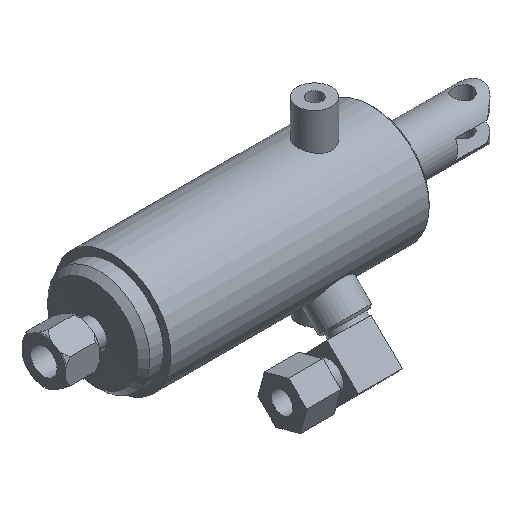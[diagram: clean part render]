
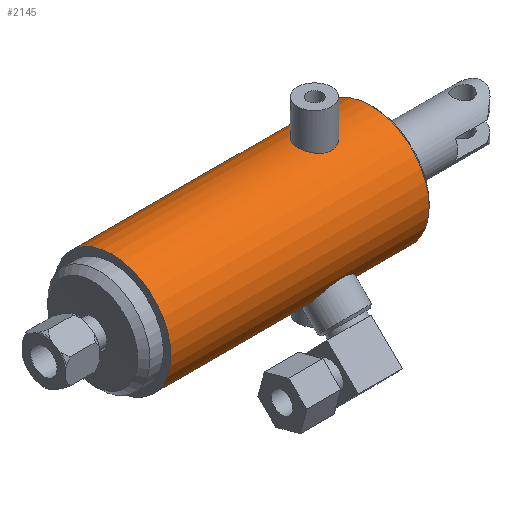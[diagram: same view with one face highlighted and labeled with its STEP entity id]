
A CAD part, isometric view. The second image highlights one B-rep face of the part: STEP entity #2145.
In plain terms, the highlighted cylindrical face has radius 19.05 mm (diameter 38.1 mm), a full revolution.
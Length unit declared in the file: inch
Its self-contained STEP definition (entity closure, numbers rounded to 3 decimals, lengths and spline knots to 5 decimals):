
#135=B_SPLINE_CURVE_WITH_KNOTS('',3,(#4104,#4105,#4106,#4107,#4108,#4109,
#4110,#4111,#4112,#4113,#4114,#4115,#4116,#4117,#4118,#4119,#4120,#4121,
#4122,#4123,#4124,#4125,#4126,#4127,#4128,#4129,#4130,#4131,#4132,#4133,
#4134,#4135,#4136,#4137),.UNSPECIFIED.,.T.,.F.,(4,2,2,2,2,2,2,2,2,2,2,2,
2,2,2,2,4),(0.,0.08293,0.16587,0.24878,0.33169,
0.4146,0.49752,0.58045,0.66338,
0.74632,0.82925,0.91216,0.99507,
1.07799,1.1609,1.24383,1.32677),
 .UNSPECIFIED.);
#137=B_SPLINE_CURVE_WITH_KNOTS('',3,(#4181,#4182,#4183,#4184,#4185,#4186,
#4187,#4188,#4189,#4190,#4191,#4192,#4193,#4194,#4195,#4196,#4197,#4198,
#4199,#4200,#4201,#4202,#4203,#4204,#4205,#4206,#4207,#4208,#4209,#4210,
#4211,#4212,#4213,#4214),.UNSPECIFIED.,.T.,.F.,(4,2,2,2,2,2,2,2,2,2,2,2,
2,2,2,2,4),(0.,0.08293,0.16586,0.24875,0.33164,
0.41457,0.49751,0.58045,0.66338,
0.74632,0.82926,0.91219,0.99513,
1.07802,1.16091,1.24384,1.32677),
 .UNSPECIFIED.);
#326=FACE_BOUND('',#715,.T.);
#327=FACE_BOUND('',#716,.T.);
#328=FACE_BOUND('',#717,.T.);
#478=FACE_OUTER_BOUND('',#714,.T.);
#714=EDGE_LOOP('',(#1941));
#715=EDGE_LOOP('',(#1942));
#716=EDGE_LOOP('',(#1943));
#717=EDGE_LOOP('',(#1944));
#982=CIRCLE('',#2433,0.75);
#983=CIRCLE('',#2437,0.75);
#1167=VERTEX_POINT('',#4103);
#1171=VERTEX_POINT('',#4180);
#1181=VERTEX_POINT('',#4243);
#1182=VERTEX_POINT('',#4248);
#1425=EDGE_CURVE('',#1167,#1167,#135,.T.);
#1429=EDGE_CURVE('',#1171,#1171,#137,.T.);
#1439=EDGE_CURVE('',#1181,#1181,#982,.T.);
#1440=EDGE_CURVE('',#1182,#1182,#983,.T.);
#1941=ORIENTED_EDGE('',*,*,#1439,.F.);
#1942=ORIENTED_EDGE('',*,*,#1425,.T.);
#1943=ORIENTED_EDGE('',*,*,#1429,.T.);
#1944=ORIENTED_EDGE('',*,*,#1440,.T.);
#1995=CYLINDRICAL_SURFACE('',#2439,0.75);
#2145=ADVANCED_FACE('',(#478,#326,#327,#328),#1995,.T.);
#2433=AXIS2_PLACEMENT_3D('',#4244,#3064,#3065);
#2437=AXIS2_PLACEMENT_3D('',#4249,#3072,#3073);
#2439=AXIS2_PLACEMENT_3D('',#4252,#3076,#3077);
#3064=DIRECTION('center_axis',(1.,0.,0.));
#3065=DIRECTION('ref_axis',(0.,-1.,0.));
#3072=DIRECTION('center_axis',(1.,0.,0.));
#3073=DIRECTION('ref_axis',(0.,-1.,0.));
#3076=DIRECTION('center_axis',(1.,0.,0.));
#3077=DIRECTION('ref_axis',(0.,-1.,0.));
#4103=CARTESIAN_POINT('',(28.72441,7.43572,1.12389));
#4104=CARTESIAN_POINT('Ctrl Pts',(28.72441,7.43572,1.12389));
#4105=CARTESIAN_POINT('Ctrl Pts',(28.75206,7.43572,1.12389));
#4106=CARTESIAN_POINT('Ctrl Pts',(28.78143,7.43016,1.12565));
#4107=CARTESIAN_POINT('Ctrl Pts',(28.83527,7.40779,1.13191));
#4108=CARTESIAN_POINT('Ctrl Pts',(28.85976,7.39098,1.1363));
#4109=CARTESIAN_POINT('Ctrl Pts',(28.89842,7.35232,1.14445));
#4110=CARTESIAN_POINT('Ctrl Pts',(28.91523,7.32783,1.14875));
#4111=CARTESIAN_POINT('Ctrl Pts',(28.93761,7.27398,1.15482));
#4112=CARTESIAN_POINT('Ctrl Pts',(28.94316,7.24461,1.1565));
#4113=CARTESIAN_POINT('Ctrl Pts',(28.94316,7.18933,1.1565));
#4114=CARTESIAN_POINT('Ctrl Pts',(28.93761,7.15996,1.15482));
#4115=CARTESIAN_POINT('Ctrl Pts',(28.91523,7.10611,1.14875));
#4116=CARTESIAN_POINT('Ctrl Pts',(28.89842,7.08162,1.14445));
#4117=CARTESIAN_POINT('Ctrl Pts',(28.85976,7.04296,1.1363));
#4118=CARTESIAN_POINT('Ctrl Pts',(28.83527,7.02615,1.13191));
#4119=CARTESIAN_POINT('Ctrl Pts',(28.78143,7.00378,1.12565));
#4120=CARTESIAN_POINT('Ctrl Pts',(28.75206,6.99822,1.12389));
#4121=CARTESIAN_POINT('Ctrl Pts',(28.69677,6.99822,1.12389));
#4122=CARTESIAN_POINT('Ctrl Pts',(28.6674,7.00378,1.12565));
#4123=CARTESIAN_POINT('Ctrl Pts',(28.61356,7.02615,1.13191));
#4124=CARTESIAN_POINT('Ctrl Pts',(28.58907,7.04296,1.1363));
#4125=CARTESIAN_POINT('Ctrl Pts',(28.55041,7.08162,1.14445));
#4126=CARTESIAN_POINT('Ctrl Pts',(28.53359,7.10611,1.14875));
#4127=CARTESIAN_POINT('Ctrl Pts',(28.51122,7.15996,1.15482));
#4128=CARTESIAN_POINT('Ctrl Pts',(28.50566,7.18933,1.1565));
#4129=CARTESIAN_POINT('Ctrl Pts',(28.50566,7.24461,1.1565));
#4130=CARTESIAN_POINT('Ctrl Pts',(28.51122,7.27398,1.15482));
#4131=CARTESIAN_POINT('Ctrl Pts',(28.53359,7.32783,1.14875));
#4132=CARTESIAN_POINT('Ctrl Pts',(28.55041,7.35232,1.14445));
#4133=CARTESIAN_POINT('Ctrl Pts',(28.58907,7.39098,1.1363));
#4134=CARTESIAN_POINT('Ctrl Pts',(28.61356,7.40779,1.13191));
#4135=CARTESIAN_POINT('Ctrl Pts',(28.6674,7.43016,1.12565));
#4136=CARTESIAN_POINT('Ctrl Pts',(28.69677,7.43572,1.12389));
#4137=CARTESIAN_POINT('Ctrl Pts',(28.72441,7.43572,1.12389));
#4180=CARTESIAN_POINT('',(28.72441,7.43385,-0.31146));
#4181=CARTESIAN_POINT('Ctrl Pts',(28.72441,7.43385,-0.31146));
#4182=CARTESIAN_POINT('Ctrl Pts',(28.69677,7.43385,-0.31146));
#4183=CARTESIAN_POINT('Ctrl Pts',(28.6674,7.42829,-0.31321));
#4184=CARTESIAN_POINT('Ctrl Pts',(28.61355,7.40592,-0.3194));
#4185=CARTESIAN_POINT('Ctrl Pts',(28.58906,7.38911,-0.32375));
#4186=CARTESIAN_POINT('Ctrl Pts',(28.5504,7.35044,-0.3318));
#4187=CARTESIAN_POINT('Ctrl Pts',(28.53359,7.32594,-0.33604));
#4188=CARTESIAN_POINT('Ctrl Pts',(28.51122,7.2721,-0.34196));
#4189=CARTESIAN_POINT('Ctrl Pts',(28.50566,7.24273,-0.34357));
#4190=CARTESIAN_POINT('Ctrl Pts',(28.50566,7.18745,-0.34343));
#4191=CARTESIAN_POINT('Ctrl Pts',(28.51122,7.15808,-0.34168));
#4192=CARTESIAN_POINT('Ctrl Pts',(28.5336,7.10423,-0.33547));
#4193=CARTESIAN_POINT('Ctrl Pts',(28.55041,7.07974,-0.3311));
#4194=CARTESIAN_POINT('Ctrl Pts',(28.58908,7.04108,-0.32285));
#4195=CARTESIAN_POINT('Ctrl Pts',(28.61356,7.02428,-0.31842));
#4196=CARTESIAN_POINT('Ctrl Pts',(28.6674,7.00191,-0.3121));
#4197=CARTESIAN_POINT('Ctrl Pts',(28.69677,6.99635,-0.31032));
#4198=CARTESIAN_POINT('Ctrl Pts',(28.75206,6.99635,-0.31032));
#4199=CARTESIAN_POINT('Ctrl Pts',(28.78143,7.00191,-0.3121));
#4200=CARTESIAN_POINT('Ctrl Pts',(28.83527,7.02428,-0.31842));
#4201=CARTESIAN_POINT('Ctrl Pts',(28.85975,7.04108,-0.32285));
#4202=CARTESIAN_POINT('Ctrl Pts',(28.89841,7.07974,-0.3311));
#4203=CARTESIAN_POINT('Ctrl Pts',(28.91522,7.10423,-0.33547));
#4204=CARTESIAN_POINT('Ctrl Pts',(28.9376,7.15808,-0.34168));
#4205=CARTESIAN_POINT('Ctrl Pts',(28.94316,7.18745,-0.34343));
#4206=CARTESIAN_POINT('Ctrl Pts',(28.94316,7.24273,-0.34357));
#4207=CARTESIAN_POINT('Ctrl Pts',(28.93761,7.2721,-0.34196));
#4208=CARTESIAN_POINT('Ctrl Pts',(28.91524,7.32594,-0.33604));
#4209=CARTESIAN_POINT('Ctrl Pts',(28.89843,7.35044,-0.3318));
#4210=CARTESIAN_POINT('Ctrl Pts',(28.85977,7.38911,-0.32375));
#4211=CARTESIAN_POINT('Ctrl Pts',(28.83527,7.40592,-0.3194));
#4212=CARTESIAN_POINT('Ctrl Pts',(28.78143,7.42829,-0.31321));
#4213=CARTESIAN_POINT('Ctrl Pts',(28.75206,7.43385,-0.31146));
#4214=CARTESIAN_POINT('Ctrl Pts',(28.72441,7.43385,-0.31146));
#4243=CARTESIAN_POINT('',(29.44441,7.96697,0.4065));
#4244=CARTESIAN_POINT('Origin',(29.44441,7.21697,0.4065));
#4248=CARTESIAN_POINT('',(26.13141,6.46697,0.4065));
#4249=CARTESIAN_POINT('Origin',(26.13141,7.21697,0.4065));
#4252=CARTESIAN_POINT('Origin',(27.33368,7.21697,0.4065));
